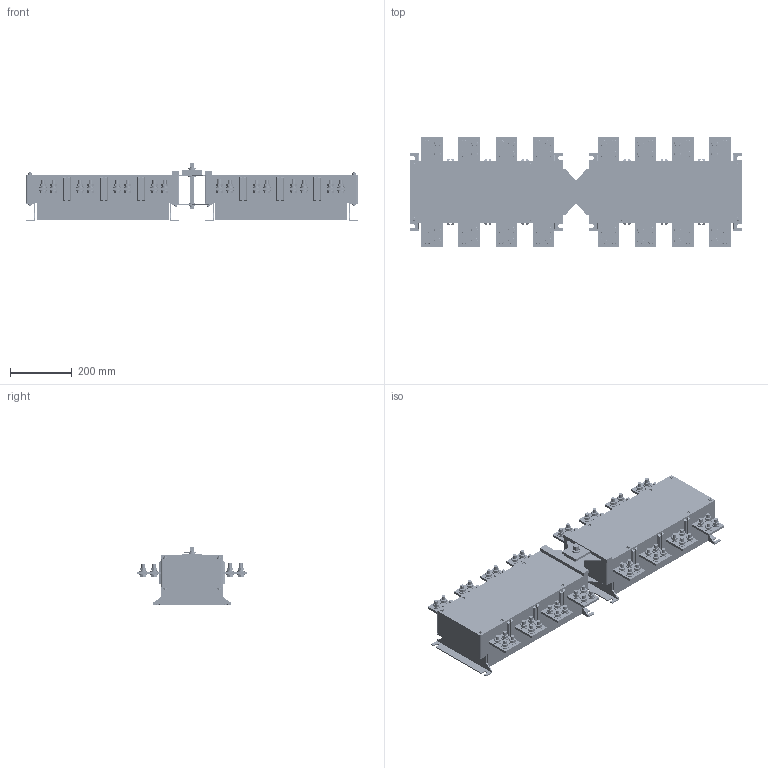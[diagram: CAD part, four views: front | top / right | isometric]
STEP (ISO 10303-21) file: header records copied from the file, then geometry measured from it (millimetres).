
FILE_DESCRIPTION((''),'2;1');
FILE_NAME('1250-4S_ASM','2021-05-07T',('wangpeng'),(''),'PRO/ENGINEER BY PARAMETRIC TECHNOLOGY CORPORATION, 2009460','PRO/ENGINEER BY PARAMETRIC TECHNOLOGY CORPORATION, 2009460','');
FILE_SCHEMA(('AUTOMOTIVE_DESIGN { 1 0 10303 214 1 1 1 1 }'));
Length unit declared in the file: millimetre
Products named in the file (23): SB-1250-4S; ZB-1250-4S; XB-1250-4S; CT-1250-4S; YB-1250-4S; ZCB-1250-4S; DB-1250-4S; DBX-1250-4S; ZCBX-1250-4S; LGM6; LMM6; 0LGM6; PDQ6; PDQ12; LSM12; TDQ12; LMM12; ZSJNH40; FKSNH40; ZSJTNH40; ZZ-1250-4S; DQM8; 1250-4S_ASM
Assembly tree (409 placements, depth 2):
  1250-4S_ASM
    SB-1250-4S  x2
    ZB-1250-4S  x2
    XB-1250-4S  x2
    CT-1250-4S  x8
    YB-1250-4S  x2
    ZCB-1250-4S
    DB-1250-4S  x2
    DBX-1250-4S  x2
    ZCBX-1250-4S
    LGM6  x8
    LMM6  x28
    0LGM6  x8
    PDQ6  x4
    PDQ12  x128
    LSM12  x66
    TDQ12  x70
    LMM12  x67
    ZSJNH40
    FKSNH40  x3
    ZSJTNH40
    ZZ-1250-4S
    DQM8  x2
Bounding box: 1075 x 356 x 189 mm (x, y, z)
Volume: 29329948.8 mm3; surface area: 2788546.1 mm2
Topology: 409 solids, 409 shells, 5772 faces, 13049 edges, 8188 vertices
Faces by surface type: plane 2727, cone 1536, cylinder 1509
Entity records: 25681 total; most frequent: CARTESIAN_POINT 4602, DIRECTION 4009, ORIENTED_EDGE 3260, EDGE_CURVE 1630, AXIS2_PLACEMENT_3D 1398, VECTOR 1213, LINE 1213, VERTEX_POINT 1077
